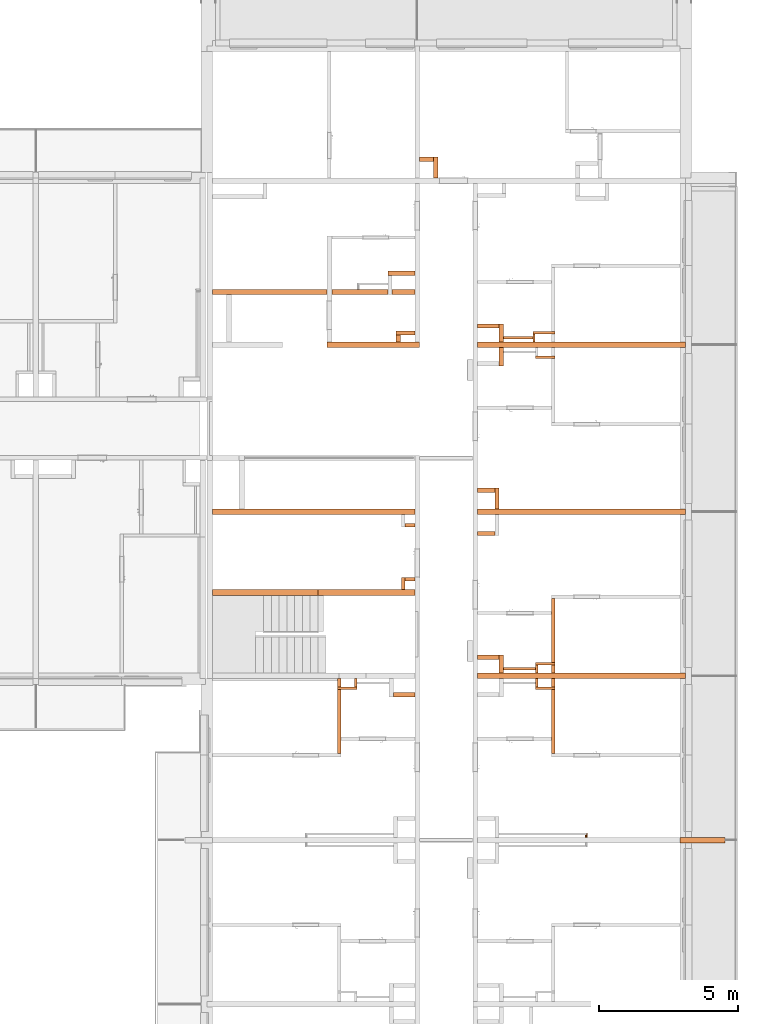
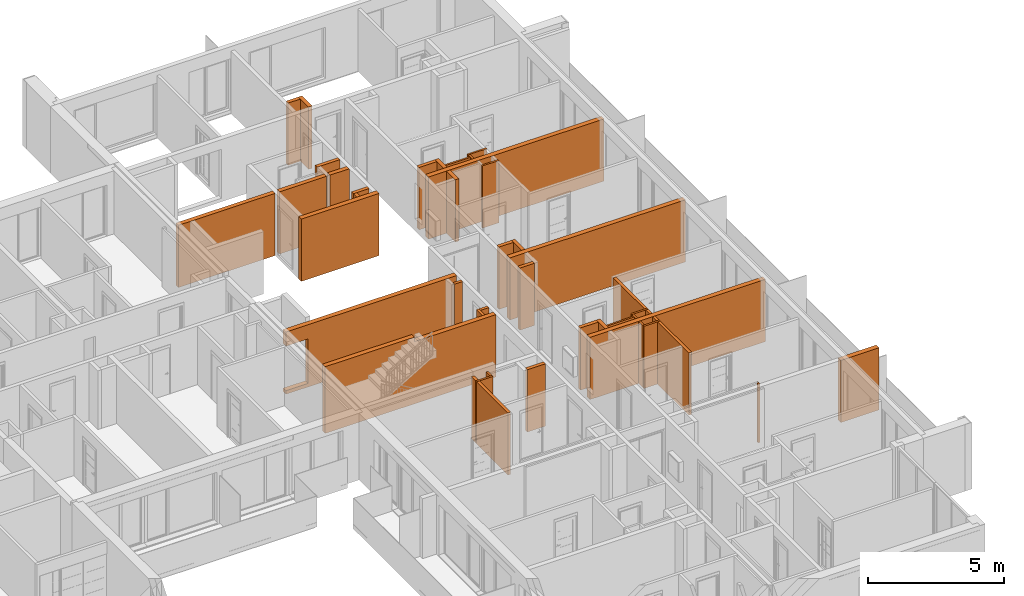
# One storey, part 65 of 66: 40 proxies, 1 opening.
"""IFC2X3 building model written with IfcOpenShell, lengths in millimetres."""

from ifc_helpers import new_model, entity, si_unit, converted_unit, derived_unit, money_unit, direction, frame, origin_with_axes, origin_2d_with_axis, place, context, subcontext, project, spatial, rectangle, extrude, faceted_brep, material, material_list, type_object, element, save


model = new_model("IFC2X3")

# Units and contexts
model_context = context("Model", 3, precision=0.01, world=origin_with_axes(), true_north=direction((0.34421633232, 0.938890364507)))
body_context = subcontext(model_context, "Body", "Model", "MODEL_VIEW")
ifc_project = project(units=[si_unit("LENGTHUNIT", "METRE", prefix="MILLI"), si_unit("AREAUNIT", "SQUARE_METRE"), si_unit("VOLUMEUNIT", "CUBIC_METRE"), converted_unit("PLANEANGLEUNIT", "DEGREE", entity("IfcPlaneAngleMeasure", 0.0174532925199), si_unit("PLANEANGLEUNIT", "RADIAN"), dimensions=[0, 0, 0, 0, 0, 0, 0]), si_unit("SOLIDANGLEUNIT", "STERADIAN"), money_unit("USD"), converted_unit("TIMEUNIT", "Year", entity("IfcTimeMeasure", 31556926.0), si_unit("TIMEUNIT", "SECOND"), dimensions=[0, 0, 1, 0, 0, 0, 0]), si_unit("MASSUNIT", "GRAM", prefix="KILO"), si_unit("THERMODYNAMICTEMPERATUREUNIT", "DEGREE_CELSIUS"), si_unit("LUMINOUSINTENSITYUNIT", "LUMEN"), si_unit("ENERGYUNIT", "JOULE", prefix="MEGA"), derived_unit("THERMALCONDUCTANCEUNIT", [(si_unit("POWERUNIT", "WATT"), 1), (si_unit("LENGTHUNIT", "METRE"), -1), (si_unit("THERMODYNAMICTEMPERATUREUNIT", "KELVIN"), -1)]), derived_unit("SPECIFICHEATCAPACITYUNIT", [(si_unit("ENERGYUNIT", "JOULE"), 1), (si_unit("MASSUNIT", "GRAM", prefix="KILO"), -1), (si_unit("THERMODYNAMICTEMPERATUREUNIT", "KELVIN"), -1)]), derived_unit("MASSDENSITYUNIT", [(si_unit("MASSUNIT", "GRAM", prefix="KILO"), 1), (si_unit("VOLUMEUNIT", "CUBIC_METRE"), -1)])], contexts=[model_context])

# Site, building, storey
site_placement = place(None, origin_with_axes())
site = spatial("IfcSite", under=ifc_project, at=site_placement, Name="USTRONIE MORSKIE", CompositionType="ELEMENT")
building_placement = place(site_placement, origin_with_axes())
building = spatial("IfcBuilding", under=site, at=building_placement, Name="Budynek", CompositionType="ELEMENT")
storey_placement = place(building_placement, frame((0.0, 0.0, 10000.0), z_axis=(0.0, 0.0, 1.0), x_axis=(1.0, 0.0, 0.0)))
storey = spatial("IfcBuildingStorey", under=building, at=storey_placement, Name="PIĘTRO 3", CompositionType="ELEMENT", Elevation=10000.0)

# Proxies
ifc_material_1 = material(Name="Bloczki silikatowe")
building_element_proxy_type_1 = type_object("IfcBuildingElementProxyType", Name="Bloczki silikatowe 120", PredefinedType="NOTDEFINED")
proxy_1_placement = place(storey_placement, frame((413217.920919, 726901.199036, -160.0), z_axis=(0.0, 0.0, 1.0), x_axis=(0.0, -1.0, 0.0)))
element("IfcBuildingElementProxy", 1, at=proxy_1_placement, inside=storey, type_object=building_element_proxy_type_1, material=ifc_material_1, Name="SW-04", context=body_context, shape_type="Brep", body=[
    faceted_brep([(400.01915523, 60.0, 0.0), (99.9999999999, 60.0, 0.0), (99.9999999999, 60.0, 2800.0), (400.01915523, 60.0, 2800.0), (99.9999999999, -60.0, 0.0), (99.9999999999, 0.0, 0.0), (400.01915523, -60.0, 0.0), (99.9999999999, 0.0, 2800.0), (99.9999999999, -60.0, 2800.0), (400.01915523, -60.0, 2800.0)], [[[0, 1, 2, 3]], [[4, 5, 1, 0, 6]], [[5, 7, 2, 1]], [[2, 7, 8, 9, 3]], [[6, 0, 3, 9]], [[4, 8, 7, 5]], [[9, 8, 4, 6]]]),
    faceted_brep([(480.01915523, 60.0, 0.0), (480.01915523, 60.0, 2800.0), (2790.01935038, 60.0, 2800.0), (2790.01935038, 60.0, 0.0), (480.01915523, -60.0, 2800.0), (480.01915523, -60.0, 0.0), (2790.01935038, -60.0, 2800.0), (2790.01935038, -60.0, 0.0)], [[[0, 1, 2, 3]], [[4, 1, 0, 5]], [[1, 4, 6, 2]], [[3, 2, 6, 7]], [[5, 0, 3, 7]], [[4, 5, 7, 6]]]),
])
proxy_2_placement = place(storey_placement, frame((415587.920919, 729901.198865, -160.0), z_axis=(0.0, 0.0, 1.0), x_axis=(0.0, 1.0, 0.0)))
element("IfcBuildingElementProxy", 2, at=proxy_2_placement, inside=storey, type_object=building_element_proxy_type_1, material=ifc_material_1, Name="SW-04", context=body_context, shape_type="Brep", body=[
    faceted_brep([(540.000171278, 120.0, 0.0), (540.000171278, 0.0, 0.0), (100.000152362, 0.0, 0.0), (100.000147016, 120.0, 0.0), (540.000171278, 120.0, 2800.0), (540.000171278, 0.0, 2800.0), (100.000152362, 0.0, 2800.0), (100.000147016, 120.0, 2800.0)], [[[0, 1, 2, 3]], [[1, 0, 4, 5]], [[1, 5, 6, 2]], [[7, 3, 2, 6]], [[4, 0, 3, 7]], [[5, 4, 7, 6]]]),
])
proxy_3_placement = place(storey_placement, frame((420917.920919, 726901.199036, -160.0), z_axis=(0.0, 0.0, 1.0), x_axis=(0.0, 1.0, 0.0)))
element("IfcBuildingElementProxy", 3, at=proxy_3_placement, inside=storey, type_object=building_element_proxy_type_1, material=ifc_material_1, Name="SW-04", context=body_context, shape_type="Brep", body=[
    faceted_brep([(400.01915523, -60.0, 2800.0), (400.01915523, 60.0, 2800.0), (99.9999999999, 60.0, 2800.0), (99.9999999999, -60.0, 2800.0), (400.01915523, -60.0, 0.0), (400.01915523, 60.0, 0.0), (99.9999999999, 60.0, 0.0), (99.9999999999, -60.0, 0.0)], [[[0, 1, 2, 3]], [[1, 0, 4, 5]], [[1, 5, 6, 2]], [[7, 3, 2, 6]], [[4, 0, 3, 7]], [[5, 4, 7, 6]]]),
    faceted_brep([(2790.01935038, -60.0, 2800.0), (2790.01935038, 60.0, 2800.0), (480.01915523, 60.0, 2800.0), (480.01915523, -60.0, 2800.0), (2790.01935038, -60.0, 0.0), (2790.01935038, 60.0, 0.0), (480.01915523, 60.0, 0.0), (480.01915523, -60.0, 0.0)], [[[0, 1, 2, 3]], [[1, 0, 4, 5]], [[1, 5, 6, 2]], [[7, 3, 2, 6]], [[4, 0, 3, 7]], [[5, 4, 7, 6]]]),
])
proxy_4_placement = place(storey_placement, frame((415587.920919, 732381.198997, -160.0), z_axis=(0.0, 0.0, 1.0), x_axis=(1.0, 0.0, 0.0)))
element("IfcBuildingElementProxy", 4, at=proxy_4_placement, inside=storey, type_object=building_element_proxy_type_1, material=ifc_material_1, Name="SW-04", context=body_context, shape_type="Brep", body=[
    faceted_brep([(350.0, -120.0, 2800.0), (350.0, 0.0, 2800.0), (0.0, 0.0, 2800.0), (0.0, -120.0, 2800.0), (350.0, -120.0, 0.0), (350.0, 0.0, 0.0), (0.0, 0.0, 0.0), (0.0, -120.0, 0.0)], [[[0, 1, 2, 3]], [[1, 0, 4, 5]], [[1, 5, 6, 2]], [[7, 3, 2, 6]], [[4, 0, 3, 7]], [[5, 4, 7, 6]]]),
])
proxy_5_placement = place(storey_placement, frame((420917.920919, 726901.199036, -160.0), z_axis=(0.0, 0.0, 1.0), x_axis=(0.0, -1.0, 0.0)))
element("IfcBuildingElementProxy", 5, at=proxy_5_placement, inside=storey, type_object=building_element_proxy_type_1, material=ifc_material_1, Name="SW-04", context=body_context, shape_type="Brep", body=[
    faceted_brep([(400.01915523, 60.0, 0.0), (99.9999999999, 60.0, 0.0), (99.9999999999, 60.0, 2800.0), (400.01915523, 60.0, 2800.0), (400.01915523, -60.0, 0.0), (99.9999999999, -60.0, 0.0), (99.9999999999, -60.0, 2800.0), (400.01915523, -60.0, 2800.0)], [[[0, 1, 2, 3]], [[4, 5, 1, 0]], [[5, 6, 2, 1]], [[3, 2, 6, 7]], [[3, 7, 4, 0]], [[7, 6, 5, 4]]]),
    faceted_brep([(480.01915523, -60.0, 0.0), (480.01915523, 60.0, 0.0), (2790.01935038, 60.0, 0.0), (2790.01935038, -60.0, 0.0), (480.01915523, -60.0, 2800.0), (480.01915523, 60.0, 2800.0), (2790.01935038, 60.0, 2800.0), (2790.01935038, -60.0, 2800.0)], [[[0, 1, 2, 3]], [[1, 0, 4, 5]], [[1, 5, 6, 2]], [[7, 3, 2, 6]], [[4, 0, 3, 7]], [[5, 4, 7, 6]]]),
])
proxy_6_placement = place(storey_placement, frame((415587.920919, 730321.199036, -160.0), z_axis=(0.0, 0.0, 1.0), x_axis=(1.0, 0.0, 0.0)))
element("IfcBuildingElementProxy", 6, at=proxy_6_placement, inside=storey, type_object=building_element_proxy_type_1, material=ifc_material_1, Name="SW-04", context=body_context, shape_type="Brep", body=[
    faceted_brep([(350.0, 120.0, 0.0), (350.0, 0.0, 0.0), (0.0, 0.0, 0.0), (0.0, 120.0, 0.0), (350.0, 120.0, 2800.0), (350.0, 0.0, 2800.0), (0.0, 0.0, 2800.0), (0.0, 120.0, 2800.0)], [[[0, 1, 2, 3]], [[1, 0, 4, 5]], [[1, 5, 6, 2]], [[7, 3, 2, 6]], [[4, 0, 3, 7]], [[5, 4, 7, 6]]]),
])
building_element_proxy_type_2 = type_object("IfcBuildingElementProxyType", Name="Bloczki silikatowe 180", PredefinedType="NOTDEFINED")
proxy_7_placement = place(storey_placement, frame((408567.920918, 740711.179476, -160.0), z_axis=(0.0, 0.0, 1.0), x_axis=(1.0, 0.0, 0.0)))
element("IfcBuildingElementProxy", 7, at=proxy_7_placement, inside=storey, type_object=building_element_proxy_type_2, material=ifc_material_1, Name="SW-02", context=body_context, shape_type="Brep", body=[
    faceted_brep([(6399.99820625, 90.0, 0.0), (6399.99820625, -90.0, 0.0), (4400.00004608, -90.0, 0.0), (4400.00004608, 90.0, 0.0), (6399.99820625, 90.0, 2800.0), (6399.99820625, -90.0, 2800.0), (4400.00004608, -90.0, 2800.0), (4400.00004608, 90.0, 2800.0)], [[[0, 1, 2, 3]], [[1, 0, 4, 5]], [[1, 5, 6, 2]], [[7, 3, 2, 6]], [[4, 0, 3, 7]], [[5, 4, 7, 6]]]),
    faceted_brep([(4220.00004608, 90.0, 0.0), (4220.00004608, -90.0, 0.0), (100.000000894, -90.0, 0.0), (100.000000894, 90.0, 0.0), (4220.00004608, 90.0, 2800.0), (4220.00004608, -90.0, 2800.0), (100.000000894, -90.0, 2800.0), (100.000000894, 90.0, 2800.0)], [[[0, 1, 2, 3]], [[1, 0, 4, 5]], [[1, 5, 6, 2]], [[7, 3, 2, 6]], [[4, 0, 3, 7]], [[5, 4, 7, 6]]]),
    faceted_brep([(7370.00002256, 90.0, 0.0), (7370.00002256, -90.0, 0.0), (6549.99820625, -90.0, 0.0), (6549.99820625, 90.0, 0.0), (7370.00002256, 90.0, 2800.0), (7370.00002256, -90.0, 2800.0), (6549.99820625, -90.0, 2800.0), (6549.99820625, 90.0, 2800.0)], [[[0, 1, 2, 3]], [[1, 0, 4, 5]], [[1, 5, 6, 2]], [[7, 3, 2, 6]], [[4, 0, 3, 7]], [[5, 4, 7, 6]]]),
])
ifc_material_2 = material(Name="-Pustka powietrzna")
ifc_material_3 = material(Name="Płyta GK")
ifc_material_list = material_list([ifc_material_2, ifc_material_3, ifc_material_3])
building_element_proxy_type_3 = type_object("IfcBuildingElementProxyType", Name="330-SD GK 2-warstwy 75", PredefinedType="NOTDEFINED")
proxy_8_placement = place(storey_placement, frame((420317.920919, 727171.200737, -180.0), z_axis=(0.0, 0.0, 1.0), x_axis=(-1.0, 0.0, 0.0)))
element("IfcBuildingElementProxy", 8, at=proxy_8_placement, inside=storey, type_object=building_element_proxy_type_3, material=ifc_material_list, Name="Ściana-009", context=body_context, shape_type="Brep", body=[
    faceted_brep([(40.0, 50.0, 180.0), (40.0, 0.0, 180.0), (40.0, 0.0, 2820.0), (40.0, 50.0, 2820.0), (1199.99909883, 0.0, 180.0), (1199.99909883, 50.0, 180.0), (1199.99909883, 0.0, 2820.0), (1199.99909883, 50.0, 2820.0)], [[[0, 1, 2, 3]], [[4, 1, 0, 5]], [[1, 4, 6, 2]], [[2, 6, 7, 3]], [[5, 0, 3, 7]], [[4, 5, 7, 6]]]),
    faceted_brep([(40.0, 0.0, 165.0), (40.0, -12.5, 165.0), (40.0, -12.5, 2820.0), (40.0, 0.0, 2820.0), (1199.99909883, -12.5, 165.0), (1199.99909883, 0.0, 165.0), (1199.99909883, -12.5, 2820.0), (1199.99909883, 0.0, 2820.0)], [[[0, 1, 2, 3]], [[4, 1, 0, 5]], [[1, 4, 6, 2]], [[2, 6, 7, 3]], [[5, 0, 3, 7]], [[4, 5, 7, 6]]]),
    faceted_brep([(40.0, -12.5, 165.0), (40.0, -25.0, 165.0), (40.0, -25.0, 2820.0), (40.0, -12.5, 2820.0), (1199.99909883, -25.0, 165.0), (1199.99909883, -12.5, 165.0), (1199.99909883, -25.0, 2820.0), (1199.99909883, -12.5, 2820.0)], [[[0, 1, 2, 3]], [[4, 1, 0, 5]], [[1, 4, 6, 2]], [[2, 6, 7, 3]], [[5, 0, 3, 7]], [[4, 5, 7, 6]]]),
])
proxy_9_placement = place(storey_placement, frame((420217.920919, 739071.20032, -180.0), z_axis=(0.0, 0.0, 1.0), x_axis=(-1.0, 0.0, 0.0)))
element("IfcBuildingElementProxy", 9, at=proxy_9_placement, inside=storey, type_object=building_element_proxy_type_3, material=ifc_material_list, Name="Ściana-009", context=body_context, shape_type="Brep", body=[
    faceted_brep([(40.0, 50.0, 180.0), (40.0, 0.0, 180.0), (40.0, 0.0, 2820.0), (40.0, 50.0, 2820.0), (1099.99909883, 0.0, 180.0), (1099.99909883, 50.0, 180.0), (1099.99909883, 0.0, 2820.0), (1099.99909883, 50.0, 2820.0)], [[[0, 1, 2, 3]], [[4, 1, 0, 5]], [[1, 4, 6, 2]], [[7, 3, 2, 6]], [[5, 0, 3, 7]], [[4, 5, 7, 6]]]),
    faceted_brep([(40.0, 0.0, 165.0), (40.0, -12.5, 165.0), (40.0, -12.5, 2820.0), (40.0, 0.0, 2820.0), (1099.99909883, -12.5, 165.0), (1099.99909883, 0.0, 165.0), (1099.99909883, -12.5, 2820.0), (1099.99909883, 0.0, 2820.0)], [[[0, 1, 2, 3]], [[4, 1, 0, 5]], [[1, 4, 6, 2]], [[7, 3, 2, 6]], [[5, 0, 3, 7]], [[4, 5, 7, 6]]]),
    faceted_brep([(40.0, -12.5, 165.0), (40.0, -25.0, 165.0), (40.0, -25.0, 2820.0), (40.0, -12.5, 2820.0), (1099.99909883, -25.0, 165.0), (1099.99909883, -12.5, 165.0), (1099.99909883, -25.0, 2820.0), (1099.99909883, -12.5, 2820.0)], [[[0, 1, 2, 3]], [[4, 1, 0, 5]], [[1, 4, 6, 2]], [[7, 3, 2, 6]], [[5, 0, 3, 7]], [[4, 5, 7, 6]]]),
])
proxy_10_placement = place(storey_placement, frame((422117.920919, 721001.199036, -180.0), z_axis=(0.0, 0.0, 1.0), x_axis=(0.0, 1.0, 0.0)))
element("IfcBuildingElementProxy", 10, at=proxy_10_placement, inside=storey, type_object=building_element_proxy_type_3, material=ifc_material_list, Name="Ściana-009", context=body_context, shape_type="Brep", body=[
    faceted_brep([(100.0, 0.0, 180.0), (180.0, 0.0, 180.0), (180.0, 0.0, 2820.0), (100.0, 0.0, 2820.0), (180.0, 50.0, 180.0), (100.0, 50.0, 180.0), (180.0, 50.0, 2820.0), (100.0, 50.0, 2820.0)], [[[0, 1, 2, 3]], [[4, 1, 0, 5]], [[1, 4, 6, 2]], [[6, 7, 3, 2]], [[5, 0, 3, 7]], [[4, 5, 7, 6]]]),
    faceted_brep([(100.0, -12.5, 165.0), (230.0, -12.5, 165.0), (230.0, -12.5, 2820.0), (100.0, -12.5, 2820.0), (230.0, 0.0, 165.0), (100.0, 0.0, 165.0), (230.0, 0.0, 2820.0), (100.0, 0.0, 2820.0)], [[[0, 1, 2, 3]], [[4, 1, 0, 5]], [[1, 4, 6, 2]], [[6, 7, 3, 2]], [[5, 0, 3, 7]], [[4, 5, 7, 6]]]),
    faceted_brep([(100.0, -25.0, 165.0), (242.5, -25.0, 165.0), (242.5, -25.0, 2820.0), (100.0, -25.0, 2820.0), (242.5, -12.5, 165.0), (100.0, -12.5, 165.0), (242.5, -12.5, 2820.0), (100.0, -12.5, 2820.0)], [[[0, 1, 2, 3]], [[4, 1, 0, 5]], [[1, 4, 6, 2]], [[6, 7, 3, 2]], [[5, 0, 3, 7]], [[4, 5, 7, 6]]]),
])
building_element_proxy_type_4 = type_object("IfcBuildingElementProxyType", Name="Bloczki silikatowe 80", PredefinedType="NOTDEFINED")
proxy_11_placement = place(storey_placement, frame((413217.920919, 726461.179881, -160.0), z_axis=(0.0, 0.0, 1.0), x_axis=(1.0, 0.0, 0.0)))
element("IfcBuildingElementProxy", 11, at=proxy_11_placement, inside=storey, type_object=building_element_proxy_type_4, material=ifc_material_1, Name="Ściana-009", context=body_context, shape_type="Brep", body=[
    faceted_brep([(640.0, -40.0, 2800.0), (640.0, 40.0, 2800.0), (-60.0, 40.0, 2800.0), (-60.0, -40.0, 2800.0), (640.0, -40.0, 0.0), (640.0, 40.0, 0.0), (-60.0, 40.0, 0.0), (-60.0, -40.0, 0.0)], [[[0, 1, 2, 3]], [[1, 0, 4, 5]], [[1, 5, 6, 2]], [[7, 3, 2, 6]], [[4, 0, 3, 7]], [[5, 4, 7, 6]]]),
])
proxy_12_placement = place(storey_placement, frame((420917.920919, 739241.218191, -160.0), z_axis=(0.0, 0.0, 1.0), x_axis=(-1.0, 0.0, 0.0)))
element("IfcBuildingElementProxy", 12, at=proxy_12_placement, inside=storey, type_object=building_element_proxy_type_4, material=ifc_material_1, Name="Ściana-009", context=body_context, shape_type="Brep", body=[
    faceted_brep([(740.0, -40.0, 2800.0), (740.0, 40.0, 2800.0), (-60.0, 40.0, 2800.0), (-60.0, -40.0, 2800.0), (740.0, -40.0, 0.0), (740.0, 40.0, 0.0), (-60.0, 40.0, 0.0), (-60.0, -40.0, 0.0)], [[[0, 1, 2, 3]], [[1, 0, 4, 5]], [[1, 5, 6, 2]], [[7, 3, 2, 6]], [[4, 0, 3, 7]], [[5, 4, 7, 6]]]),
])
proxy_13_placement = place(storey_placement, frame((420317.920919, 726901.199036, -160.0), z_axis=(0.0, 0.0, 1.0), x_axis=(0.0, 1.0, 0.0)))
element("IfcBuildingElementProxy", 13, at=proxy_13_placement, inside=storey, type_object=building_element_proxy_type_4, material=ifc_material_1, Name="Ściana-010", context=body_context, shape_type="Brep", body=[
    faceted_brep([(400.01915523, -40.0, 2800.0), (400.01915523, 40.0, 2800.0), (100.0, 40.0, 2800.0), (100.0, -40.0, 2800.0), (400.01915523, -40.0, 0.0), (400.01915523, 40.0, 0.0), (100.0, 40.0, 0.0), (100.0, -40.0, 0.0)], [[[0, 1, 2, 3]], [[1, 0, 4, 5]], [[1, 5, 6, 2]], [[7, 3, 2, 6]], [[4, 0, 3, 7]], [[5, 4, 7, 6]]]),
])
proxy_14_placement = place(storey_placement, frame((420317.920919, 726901.199036, -160.0), z_axis=(0.0, 0.0, 1.0), x_axis=(0.0, -1.0, 0.0)))
element("IfcBuildingElementProxy", 14, at=proxy_14_placement, inside=storey, type_object=building_element_proxy_type_4, material=ifc_material_1, Name="Ściana-010", context=body_context, shape_type="Brep", body=[
    faceted_brep([(400.01915523, 40.0, 0.0), (100.0, 40.0, 0.0), (100.0, 40.0, 2800.0), (400.01915523, 40.0, 2800.0), (400.01915523, -40.0, 0.0), (100.0, -40.0, 0.0), (100.0, -40.0, 2800.0), (400.01915523, -40.0, 2800.0)], [[[0, 1, 2, 3]], [[4, 5, 1, 0]], [[5, 6, 2, 1]], [[3, 2, 6, 7]], [[3, 7, 4, 0]], [[7, 6, 5, 4]]]),
])
for number, where, z_axis, x_axis in (
    (15, (420917.920919, 726461.179881, -160.0), (0.0, 0.0, 1.0), (-1.0, 0.0, 0.0)),
    (16, (420917.920919, 738361.179881, -160.0), (0.0, 0.0, 1.0), (-1.0, 0.0, 0.0)),
):
    element("IfcBuildingElementProxy", number, at=place(storey_placement, frame(where, z_axis=z_axis, x_axis=x_axis)), inside=storey, type_object=building_element_proxy_type_4, material=ifc_material_1, Name="Ściana-009", context=body_context, shape_type="Brep", body=[
        faceted_brep([(640.0, 40.0, 0.0), (640.0, -40.0, 0.0), (-60.0, -40.0, 0.0), (-60.0, 40.0, 0.0), (640.0, 40.0, 2800.0), (640.0, -40.0, 2800.0), (-60.0, -40.0, 2800.0), (-60.0, 40.0, 2800.0)], [[[0, 1, 2, 3]], [[1, 0, 4, 5]], [[1, 5, 6, 2]], [[7, 3, 2, 6]], [[4, 0, 3, 7]], [[5, 4, 7, 6]]]),
    ])
proxy_15_placement = place(storey_placement, frame((420217.920919, 738801.19863, -160.0), z_axis=(0.0, 0.0, 1.0), x_axis=(0.0, 1.0, 0.0)))
element("IfcBuildingElementProxy", 17, at=proxy_15_placement, inside=storey, type_object=building_element_proxy_type_4, material=ifc_material_1, Name="Ściana-010", context=body_context, shape_type="Brep", body=[
    faceted_brep([(400.019561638, -40.0, 2800.0), (400.019561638, 40.0, 2800.0), (100.000001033, 40.0, 2800.0), (100.000000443, -40.0, 2800.0), (400.019561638, -40.0, 0.0), (400.019561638, 40.0, 0.0), (100.000001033, 40.0, 0.0), (100.000000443, -40.0, 0.0)], [[[0, 1, 2, 3]], [[1, 0, 4, 5]], [[1, 5, 6, 2]], [[7, 3, 2, 6]], [[4, 0, 3, 7]], [[5, 4, 7, 6]]]),
])
proxy_16_placement = place(storey_placement, frame((413817.920919, 726901.199036, -160.0), z_axis=(0.0, 0.0, 1.0), x_axis=(0.0, -1.0, 0.0)))
element("IfcBuildingElementProxy", 18, at=proxy_16_placement, inside=storey, type_object=building_element_proxy_type_4, material=ifc_material_1, Name="Ściana-010", context=body_context, shape_type="Brep", body=[
    faceted_brep([(400.01915523, -40.0, 2800.0), (400.01915523, 40.0, 2800.0), (100.0, 40.0, 2800.0), (100.0, -40.0, 2800.0), (400.01915523, -40.0, 0.0), (400.01915523, 40.0, 0.0), (100.0, 40.0, 0.0), (100.0, -40.0, 0.0)], [[[0, 1, 2, 3]], [[1, 0, 4, 5]], [[1, 5, 6, 2]], [[7, 3, 2, 6]], [[4, 0, 3, 7]], [[5, 4, 7, 6]]]),
])
proxy_17_placement = place(storey_placement, frame((420917.920919, 727341.218191, -160.0), z_axis=(0.0, 0.0, 1.0), x_axis=(-1.0, 0.0, 0.0)))
element("IfcBuildingElementProxy", 19, at=proxy_17_placement, inside=storey, type_object=building_element_proxy_type_4, material=ifc_material_1, Name="Ściana-009", context=body_context, shape_type="Brep", body=[
    faceted_brep([(640.0, -40.0, 2800.0), (640.0, 40.0, 2800.0), (-60.0, 40.0, 2800.0), (-60.0, -40.0, 2800.0), (640.0, -40.0, 0.0), (640.0, 40.0, 0.0), (-60.0, 40.0, 0.0), (-60.0, -40.0, 0.0)], [[[0, 1, 2, 3]], [[1, 0, 4, 5]], [[1, 5, 6, 2]], [[7, 3, 2, 6]], [[4, 0, 3, 7]], [[5, 4, 7, 6]]]),
])
building_element_proxy_type_5 = type_object("IfcBuildingElementProxyType", Name="Bloczki silikatowe 150", PredefinedType="NOTDEFINED")
proxy_18_placement = place(storey_placement, frame((418817.920919, 732801.198998, -160.0), z_axis=(0.0, 0.0, 1.0), x_axis=(-8.57216283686e-05, 0.999999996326, 0.0)))
element("IfcBuildingElementProxy", 20, at=proxy_18_placement, inside=storey, type_object=building_element_proxy_type_5, material=ifc_material_1, Name="Ściana-009", context=body_context, shape_type="Brep", body=[
    faceted_brep([(849.987177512, -150.06, 2800.0), (850.0000409, 0.0, 2800.0), (100.000038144, 0.0, 2800.0), (99.9871747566, -150.06, 2800.0), (849.987177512, -150.06, 0.0), (850.0000409, 0.0, 0.0), (100.000038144, 0.0, 0.0), (99.9871747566, -150.06, 0.0)], [[[0, 1, 2, 3]], [[1, 0, 4, 5]], [[1, 5, 6, 2]], [[7, 3, 2, 6]], [[4, 0, 3, 7]], [[5, 4, 7, 6]]]),
])
proxy_19_placement = place(storey_placement, frame((415042.919124, 741376.180377, -160.0), z_axis=(0.0, 0.0, 1.0), x_axis=(1.0, 0.0, 0.0)))
element("IfcBuildingElementProxy", 21, at=proxy_19_placement, inside=storey, type_object=building_element_proxy_type_5, material=ifc_material_1, Name="SW-03", context=body_context, shape_type="Brep", body=[
    faceted_brep([(895.001816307, 75.0, 0.0), (895.001816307, -75.0, 0.0), (-75.0, -75.0, 0.0), (-75.0, 75.0, 0.0), (895.001816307, 75.0, 2800.0), (895.001816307, -75.0, 2800.0), (-75.0, -75.0, 2800.0), (-75.0, 75.0, 2800.0)], [[[0, 1, 2, 3]], [[1, 0, 4, 5]], [[1, 5, 6, 2]], [[7, 3, 2, 6]], [[4, 0, 3, 7]], [[5, 4, 7, 6]]]),
])
proxy_20_placement = place(storey_placement, frame((416017.920004, 745476.199937, -160.0), z_axis=(0.0, 0.0, 1.0), x_axis=(1.0, 0.0, 0.0)))
element("IfcBuildingElementProxy", 22, at=proxy_20_placement, inside=storey, type_object=building_element_proxy_type_5, material=ifc_material_1, Name="SW-03", context=body_context, shape_type="Brep", body=[
    faceted_brep([(600.000084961, 75.0, 0.0), (600.000084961, -75.0, 0.0), (80.0009363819, -75.0, 0.0), (80.0009363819, 75.0, 0.0), (600.000084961, 75.0, 2800.0), (600.000084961, -75.0, 2800.0), (80.0009363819, -75.0, 2800.0), (80.0009363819, 75.0, 2800.0)], [[[0, 1, 2, 3]], [[1, 0, 4, 5]], [[1, 5, 6, 2]], [[7, 3, 2, 6]], [[4, 0, 3, 7]], [[5, 4, 7, 6]]]),
])
proxy_21_placement = place(storey_placement, frame((419042.92182, 738801.198641, -160.0), z_axis=(0.0, 0.0, 1.0), x_axis=(0.0, -1.0, 0.0)))
element("IfcBuildingElementProxy", 23, at=proxy_21_placement, inside=storey, type_object=building_element_proxy_type_5, material=ifc_material_1, Name="SW-03", context=body_context, shape_type="Brep", body=[
    faceted_brep([(750.000879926, 75.0, 0.0), (750.000879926, -75.0, 0.0), (100.000001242, -75.0, 0.0), (100.000002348, 75.0, 0.0), (750.000879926, 75.0, 2800.0), (750.000879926, -75.0, 2800.0), (100.000001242, -75.0, 2800.0), (100.000002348, 75.0, 2800.0)], [[[0, 1, 2, 3]], [[1, 0, 4, 5]], [[1, 5, 6, 2]], [[7, 3, 2, 6]], [[4, 0, 3, 7]], [[5, 4, 7, 6]]]),
])
proxy_22_placement = place(storey_placement, frame((416692.920089, 745476.199937, -160.0), z_axis=(0.0, 0.0, 1.0), x_axis=(0.0, -1.0, 0.0)))
element("IfcBuildingElementProxy", 24, at=proxy_22_placement, inside=storey, type_object=building_element_proxy_type_5, material=ifc_material_1, Name="SW-03", context=body_context, shape_type="Brep", body=[
    faceted_brep([(675.00090117, 74.9999999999, 0.0), (675.00090117, -75.0000000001, 0.0), (-75.0, -75.0, 0.0), (-75.0, 75.0, 0.0), (675.00090117, 74.9999999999, 2800.0), (675.00090117, -75.0000000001, 2800.0), (-75.0, -75.0, 2800.0), (-75.0, 75.0, 2800.0)], [[[0, 1, 2, 3]], [[1, 0, 4, 5]], [[1, 5, 6, 2]], [[7, 3, 2, 6]], [[4, 0, 3, 7]], [[5, 4, 7, 6]]]),
])
proxy_23_placement = place(storey_placement, frame((418817.920919, 732101.199036, -160.0), z_axis=(0.0, 0.0, 1.0), x_axis=(-1.0, 0.0, 0.0)))
element("IfcBuildingElementProxy", 25, at=proxy_23_placement, inside=storey, type_object=building_element_proxy_type_5, material=ifc_material_1, Name="Ściana-010", context=body_context, shape_type="Brep", body=[
    faceted_brep([(620.0, 150.06, 0.0), (620.0, 0.0, 0.0), (0.0, 0.0, 0.0), (0.0, 150.06, 0.0), (620.0, 150.06, 2800.0), (620.0, 0.0, 2800.0), (0.0, 0.0, 2800.0), (0.0, 150.06, 2800.0)], [[[0, 1, 2, 3]], [[1, 0, 4, 5]], [[1, 5, 6, 2]], [[7, 3, 2, 6]], [[4, 0, 3, 7]], [[5, 4, 7, 6]]]),
])
proxy_24_placement = place(storey_placement, frame((418817.860919, 733501.139036, -160.0), z_axis=(0.0, 0.0, 1.0), x_axis=(-1.0, 0.0, 0.0)))
element("IfcBuildingElementProxy", 26, at=proxy_24_placement, inside=storey, type_object=building_element_proxy_type_5, material=ifc_material_1, Name="Ściana-010", context=body_context, shape_type="Brep", body=[
    faceted_brep([(619.94, -150.06, 2800.0), (619.94, 0.0, 2800.0), (0.0, 0.0, 2800.0), (0.0128633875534, -150.06, 2800.0), (619.94, -150.06, 0.0), (619.94, 0.0, 0.0), (0.0, 0.0, 0.0), (0.0128633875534, -150.06, 0.0)], [[[0, 1, 2, 3]], [[1, 0, 4, 5]], [[1, 5, 6, 2]], [[7, 3, 2, 6]], [[4, 0, 3, 7]], [[5, 4, 7, 6]]]),
])
for number, where, z_axis, x_axis, name in (
    (27, (419042.92182, 739476.199519, -160.0), (0.0, 0.0, 1.0), (-1.0, 0.0, 0.0), "SW-03"),
    (28, (415092.920018, 726226.198151, -160.0), (0.0, 0.0, 1.0), (1.0, 0.0, 0.0), "SW-03"),
    (29, (419042.92182, 727576.199909, -160.0), (0.0, 0.0, 1.0), (-1.0, 0.0, 0.0), "SW-03"),
):
    element("IfcBuildingElementProxy", number, at=place(storey_placement, frame(where, z_axis=z_axis, x_axis=x_axis)), inside=storey, type_object=building_element_proxy_type_5, material=ifc_material_1, Name=name, context=body_context, shape_type="Brep", body=[
        faceted_brep([(845.00090117, -75.0, 2800.0), (845.00090117, 75.0, 2800.0), (75.0, 75.0, 2800.0), (75.0, -75.0, 2800.0), (845.00090117, -75.0, 0.0), (845.00090117, 75.0, 0.0), (75.0, 75.0, 0.0), (75.0, -75.0, 0.0)], [[[0, 1, 2, 3]], [[1, 0, 4, 5]], [[1, 5, 6, 2]], [[7, 3, 2, 6]], [[4, 0, 3, 7]], [[5, 4, 7, 6]]]),
    ])
for number, where, z_axis, x_axis, name in (
    (30, (419042.92182, 726901.199029, -160.0), (0.0, 0.0, 1.0), (0.0, 1.0, 0.0), "SW-03"),
    (31, (419042.92182, 738801.198639, -160.0), (0.0, 0.0, 1.0), (0.0, 1.0, 0.0), "SW-03"),
):
    element("IfcBuildingElementProxy", number, at=place(storey_placement, frame(where, z_axis=z_axis, x_axis=x_axis)), inside=storey, type_object=building_element_proxy_type_5, material=ifc_material_1, Name=name, context=body_context, shape_type="Brep", body=[
        faceted_brep([(750.000879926, 75.0, 2800.0), (100.000007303, 75.0, 2800.0), (100.000007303, -75.0, 2800.0), (750.000879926, -75.0, 2800.0), (750.000879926, 75.0, 0.0), (100.000007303, 75.0, 0.0), (100.000007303, -75.0, 0.0), (750.000879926, -75.0, 0.0)], [[[0, 1, 2, 3]], [[4, 5, 1, 0]], [[5, 6, 2, 1]], [[3, 2, 6, 7]], [[7, 4, 0, 3]], [[7, 6, 5, 4]]]),
    ])
proxy_25_placement = place(storey_placement, frame((415342.919124, 739226.199036, -160.0), z_axis=(0.0, 0.0, 1.0), x_axis=(1.0, 0.0, 0.0)))
element("IfcBuildingElementProxy", 32, at=proxy_25_placement, inside=storey, type_object=building_element_proxy_type_5, material=ifc_material_1, Name="SW-03", context=body_context, shape_type="Brep", body=[
    faceted_brep([(595.001816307, 75.0, 0.0), (595.001816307, -75.0, 0.0), (-75.0, -75.0, 0.0), (-75.0, 75.0, 0.0), (595.001816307, 75.0, 2800.0), (595.001816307, -75.0, 2800.0), (-75.0, -75.0, 2800.0), (-75.0, 75.0, 2800.0)], [[[0, 1, 2, 3]], [[1, 0, 4, 5]], [[1, 5, 6, 2]], [[7, 3, 2, 6]], [[4, 0, 3, 7]], [[5, 4, 7, 6]]]),
])
proxy_26_placement = place(storey_placement, frame((415342.919124, 738801.199036, -160.0), z_axis=(0.0, 0.0, 1.0), x_axis=(0.0, 1.0, 0.0)))
element("IfcBuildingElementProxy", 33, at=proxy_26_placement, inside=storey, type_object=building_element_proxy_type_5, material=ifc_material_1, Name="SW-03", context=body_context, shape_type="Brep", body=[
    faceted_brep([(350.0, 75.0, 0.0), (350.0, -75.0, 0.0), (100.0, -75.0, 0.0), (100.0, 75.0, 0.0), (350.0, 75.0, 2800.0), (350.0, -75.0, 2800.0), (100.0, -75.0, 2800.0), (100.0, 75.0, 2800.0)], [[[0, 1, 2, 3]], [[1, 0, 4, 5]], [[1, 5, 6, 2]], [[7, 3, 2, 6]], [[4, 0, 3, 7]], [[5, 4, 7, 6]]]),
])
ifc_material_4 = material(Name="Beton konstrukcyjny B25")
building_element_proxy_type_6 = type_object("IfcBuildingElementProxyType", Name="Beton konstrukcyjny B25 200", PredefinedType="NOTDEFINED")
proxy_27_placement = place(storey_placement, frame((425567.920919, 726901.199036, -160.0), z_axis=(0.0, 0.0, 1.0), x_axis=(-1.0, 0.0, 0.0)))
element("IfcBuildingElementProxy", 34, at=proxy_27_placement, inside=storey, type_object=building_element_proxy_type_6, material=ifc_material_4, Name="SW-01", context=body_context, shape_type="Brep", body=[
    faceted_brep([(-100.0, 100.0, 0.0), (7370.0, 100.0, 0.0), (7370.0, -100.0, 0.0), (-100.0, -100.0, 0.0), (-100.0, 100.0, 2800.0), (7370.0, 100.0, 2800.0), (7370.0, -100.0, 2800.0), (-100.0, -100.0, 2800.0)], [[[0, 1, 2, 3]], [[4, 5, 1, 0]], [[6, 2, 1, 5]], [[3, 2, 6, 7]], [[7, 4, 0, 3]], [[7, 6, 5, 4]]]),
])
proxy_28_placement = place(storey_placement, frame((416017.920918, 738801.199036, -180.0), z_axis=(0.0, 0.0, 1.0), x_axis=(-1.0, 0.0, 0.0)))
element("IfcBuildingElementProxy", 35, at=proxy_28_placement, inside=storey, type_object=building_element_proxy_type_6, material=ifc_material_4, Name="SW-01", context=body_context, shape_type="Brep", body=[
    faceted_brep([(0.0, -100.0, 20.0), (3139.99995392, -100.0, 20.0), (3229.99995392, -100.0, 20.0), (3229.99995392, -100.0, 2820.0), (-80.0000225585, -100.0, 2820.0), (-80.0000225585, -100.0, 20.0), (0.0, 100.0, 20.0), (3139.99995392, 100.0, 20.0), (3229.99995392, 100.0, 20.0), (3229.99995392, 100.0, 2820.0), (-80.0000225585, 100.0, 2820.0), (-80.0000225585, 100.0, 20.0)], [[[0, 1, 2, 3, 4, 5]], [[1, 0, 6, 7]], [[2, 1, 7, 8]], [[2, 8, 9, 3]], [[10, 4, 3, 9]], [[10, 11, 5, 4]], [[11, 6, 0, 5]], [[7, 6, 11, 10, 9, 8]]]),
])
proxy_29_placement = place(storey_placement, frame((418117.920919, 738801.198646, -160.0), z_axis=(0.0, 0.0, 1.0), x_axis=(1.0, -7.37678029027e-09, 0.0)))
element("IfcBuildingElementProxy", 36, at=proxy_29_placement, inside=storey, type_object=building_element_proxy_type_6, material=ifc_material_4, Name="SW-01", context=body_context, shape_type="Brep", body=[
    faceted_brep([(80.0000007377, -99.9999994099, 2800.0), (7550.00000074, -99.9999443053, 2800.0), (7549.99999926, 100.000055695, 2800.0), (79.9999992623, 100.00000059, 2800.0), (80.0000007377, -99.9999994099, 0.0), (7550.00000074, -99.9999443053, 0.0), (7549.99999926, 100.000055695, 0.0), (79.9999992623, 100.00000059, 0.0)], [[[0, 1, 2, 3]], [[4, 5, 1, 0]], [[6, 2, 1, 5]], [[3, 2, 6, 7]], [[7, 4, 0, 3]], [[7, 6, 5, 4]]]),
])
proxy_30_placement = place(storey_placement, frame((408567.920919, 729901.198705, -160.0), z_axis=(0.0, 0.0, 1.0), x_axis=(1.0, 4.45503924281e-08, 0.0)))
element("IfcBuildingElementProxy", 37, at=proxy_30_placement, inside=storey, type_object=building_element_proxy_type_6, material=ifc_material_4, Name="SW-01", context=body_context, shape_type="Brep", body=[
    faceted_brep([(100.000004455, 99.999995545, 3000.0), (3890.00000035, 100.0, 3000.0), (3890.00000035, 100.0, 2800.0), (7370.00000445, 99.9996716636, 2800.0), (7370.00000446, 99.9996716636, 0.0), (100.000004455, 99.999995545, 0.0), (99.999995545, -100.000004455, 3000.0), (3889.99999205, -100.000173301, 3000.0), (3889.99999205, -100.000173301, 2800.0), (7369.99999554, -100.000328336, 2800.0), (7369.99999554, -100.000328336, 0.0), (99.999995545, -100.000004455, 0.0)], [[[0, 1, 2, 3, 4, 5]], [[6, 7, 1, 0]], [[8, 2, 1, 7]], [[3, 2, 8, 9]], [[9, 10, 4, 3]], [[11, 5, 4, 10]], [[11, 6, 0, 5]], [[9, 8, 7, 6, 11, 10]]]),
])

# Proxy, opening
proxy_31_placement = place(storey_placement, frame((408567.920919, 732801.199036, -160.0), z_axis=(0.0, 0.0, 1.0), x_axis=(1.0, 0.0, 0.0)))
proxy_31 = element("IfcBuildingElementProxy", 38, at=proxy_31_placement, inside=storey, type_object=building_element_proxy_type_6, material=ifc_material_4, Name="SW-01", context=body_context, shape_type="Brep", body=[
    faceted_brep([(100.0, 100.0, 2800.0), (7370.0, 100.0, 2800.0), (7370.0, 100.0, 0.0), (100.0, 100.0, 0.0), (100.0, -100.0, 2800.0), (7120.0, -100.0, 2800.0), (7370.0, -100.0, 2800.0), (7370.0, -100.0, 0.0), (100.0, -100.0, 0.0)], [[[0, 1, 2, 3]], [[4, 5, 6, 1, 0]], [[2, 1, 6, 7]], [[2, 7, 8, 3]], [[8, 4, 0, 3]], [[7, 6, 5, 4, 8]]]),
])
opening_placement = place(proxy_31_placement, frame((575.001804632, -1.13686837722e-10, 160.0), z_axis=(0.0, 0.0, 1.0), x_axis=(1.0, 0.0, 0.0)))
element("IfcOpeningElement", 39, at=opening_placement, cuts=proxy_31, context=body_context, shape_type="SweptSolid", body=[
    extrude(rectangle(XDim=950.005444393, YDim=2000.0, at=origin_2d_with_axis()), frame((0.0, -100.0, 1000.0), z_axis=(0.0, 1.0, 0.0), x_axis=(1.0, 0.0, 0.0)), (0.0, 0.0, -1.0), 200.0),
    extrude(rectangle(XDim=950.005444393, YDim=2000.0, at=origin_2d_with_axis()), frame((0.0, -100.0, 1000.0), z_axis=(0.0, -1.0, 0.0), x_axis=(1.0, 0.0, 0.0)), (0.0, 0.0, -1.0), 200.0),
])

# Proxies
proxy_32_placement = place(storey_placement, frame((425567.920919, 721001.199036, -160.0), z_axis=(0.0, 0.0, 1.0), x_axis=(1.0, 0.0, 0.0)))
element("IfcBuildingElementProxy", 40, at=proxy_32_placement, inside=storey, type_object=building_element_proxy_type_6, material=ifc_material_4, Name="SW-01", context=body_context, shape_type="Brep", body=[
    faceted_brep([(1520.0, -100.0, 0.0), (-100.0, -100.0, 0.0), (-100.0, 100.0, 0.0), (1520.0, 100.0, 0.0), (1520.0, -100.0, 2800.0), (-100.0, -100.0, 2800.0), (-100.0, 100.0, 2800.0), (1520.0, 100.0, 2800.0)], [[[0, 1, 2, 3]], [[4, 5, 1, 0]], [[1, 5, 6, 2]], [[3, 2, 6, 7]], [[7, 4, 0, 3]], [[7, 6, 5, 4]]]),
])
proxy_33_placement = place(storey_placement, frame((425567.920919, 732801.199036, -160.0), z_axis=(0.0, 0.0, 1.0), x_axis=(-1.0, 0.0, 0.0)))
element("IfcBuildingElementProxy", 41, at=proxy_33_placement, inside=storey, type_object=building_element_proxy_type_6, material=ifc_material_4, Name="SW-01", context=body_context, shape_type="Brep", body=[
    faceted_brep([(-100.0, 100.0, 0.0), (7370.0, 100.0, 0.0), (7370.0, -100.0, 0.0), (-100.0, -100.0, 0.0), (-100.0, 100.0, 2800.0), (7370.0, 100.0, 2800.0), (7370.0, -100.0, 2800.0), (-100.0, -100.0, 2800.0)], [[[0, 1, 2, 3]], [[4, 5, 1, 0]], [[6, 2, 1, 5]], [[3, 2, 6, 7]], [[7, 4, 0, 3]], [[7, 6, 5, 4]]]),
])

save(model, "model.ifc")
